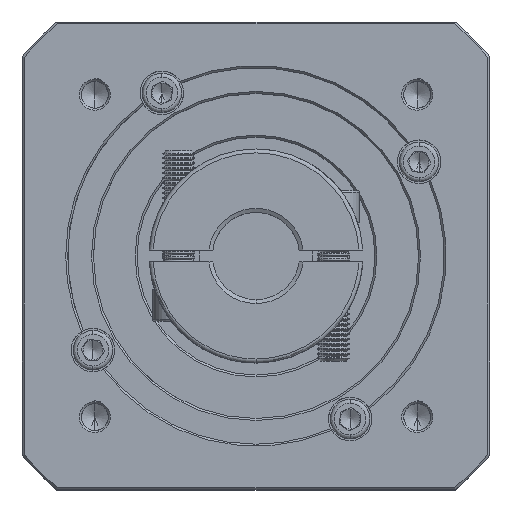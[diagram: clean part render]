
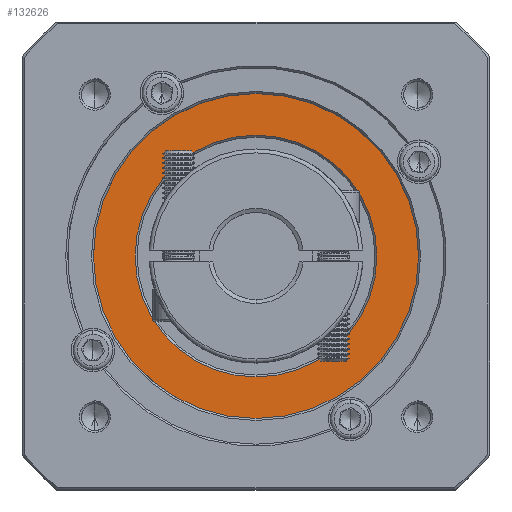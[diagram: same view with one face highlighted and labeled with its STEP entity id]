
A CAD part, top view. The second image highlights one B-rep face of the part: STEP entity #132626.
In plain terms, the highlighted planar face has unit normal (0, 0, 1).
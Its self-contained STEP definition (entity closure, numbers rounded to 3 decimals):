
#655 = CARTESIAN_POINT ( 'NONE',  ( 48.799, 76.112, -9.212 ) ) ;
#4592 = AXIS2_PLACEMENT_3D ( 'NONE', #96400, #85527, #52079 ) ;
#7394 = VERTEX_POINT ( 'NONE', #47622 ) ;
#8176 = VERTEX_POINT ( 'NONE', #59037 ) ;
#8544 = CIRCLE ( 'NONE', #102412, 30.5 ) ;
#9969 = ORIENTED_EDGE ( 'NONE', *, *, #34043, .T. ) ;
#14550 = EDGE_CURVE ( 'NONE', #73600, #8176, #8544, .T. ) ;
#16756 = AXIS2_PLACEMENT_3D ( 'NONE', #655, #51061, #93935 ) ;
#19228 = DIRECTION ( 'NONE',  ( 0., 0., 1. ) ) ;
#26816 = CARTESIAN_POINT ( 'NONE',  ( 48.799, 76.112, -9.212 ) ) ;
#34043 = EDGE_CURVE ( 'NONE', #7394, #81971, #88332, .T. ) ;
#37681 = DIRECTION ( 'NONE',  ( 0., 0., -1. ) ) ;
#38208 = EDGE_LOOP ( 'NONE', ( #103830, #79701 ) ) ;
#39008 = EDGE_CURVE ( 'NONE', #8176, #73600, #102070, .T. ) ;
#39977 = DIRECTION ( 'NONE',  ( 0., -1., 0. ) ) ;
#41791 = AXIS2_PLACEMENT_3D ( 'NONE', #127158, #19228, #39977 ) ;
#47622 = CARTESIAN_POINT ( 'NONE',  ( 48.799, 35.112, -9.212 ) ) ;
#48499 = DIRECTION ( 'NONE',  ( 0., -1., 0. ) ) ;
#51061 = DIRECTION ( 'NONE',  ( 0., 0., 1. ) ) ;
#52079 = DIRECTION ( 'NONE',  ( 0., -1., 0. ) ) ;
#54675 = CARTESIAN_POINT ( 'NONE',  ( 48.799, 117.112, -9.212 ) ) ;
#59037 = CARTESIAN_POINT ( 'NONE',  ( 48.799, 45.612, -9.212 ) ) ;
#73600 = VERTEX_POINT ( 'NONE', #134826 ) ;
#76093 = CIRCLE ( 'NONE', #16756, 41. ) ;
#76547 = DIRECTION ( 'NONE',  ( 0., -1., 0. ) ) ;
#79701 = ORIENTED_EDGE ( 'NONE', *, *, #14550, .T. ) ;
#81971 = VERTEX_POINT ( 'NONE', #54675 ) ;
#82723 = ORIENTED_EDGE ( 'NONE', *, *, #120707, .T. ) ;
#82893 = PLANE ( 'NONE',  #41791 ) ;
#85527 = DIRECTION ( 'NONE',  ( 0., 0., 1. ) ) ;
#88332 = CIRCLE ( 'NONE', #4592, 41. ) ;
#93935 = DIRECTION ( 'NONE',  ( 0., -1., 0. ) ) ;
#94510 = CARTESIAN_POINT ( 'NONE',  ( 48.799, 76.112, -9.212 ) ) ;
#96400 = CARTESIAN_POINT ( 'NONE',  ( 48.799, 76.112, -9.212 ) ) ;
#102070 = CIRCLE ( 'NONE', #104442, 30.5 ) ;
#102412 = AXIS2_PLACEMENT_3D ( 'NONE', #94510, #130178, #76547 ) ;
#103830 = ORIENTED_EDGE ( 'NONE', *, *, #39008, .T. ) ;
#104442 = AXIS2_PLACEMENT_3D ( 'NONE', #26816, #37681, #48499 ) ;
#109499 = FACE_OUTER_BOUND ( 'NONE', #138105, .T. ) ;
#120707 = EDGE_CURVE ( 'NONE', #81971, #7394, #76093, .T. ) ;
#124635 = FACE_BOUND ( 'NONE', #38208, .T. ) ;
#127158 = CARTESIAN_POINT ( 'NONE',  ( 48.799, 76.112, -9.212 ) ) ;
#130178 = DIRECTION ( 'NONE',  ( 0., 0., -1. ) ) ;
#132626 = ADVANCED_FACE ( 'NONE', ( #109499, #124635 ), #82893, .T. ) ;
#134826 = CARTESIAN_POINT ( 'NONE',  ( 48.799, 106.612, -9.212 ) ) ;
#138105 = EDGE_LOOP ( 'NONE', ( #9969, #82723 ) ) ;
